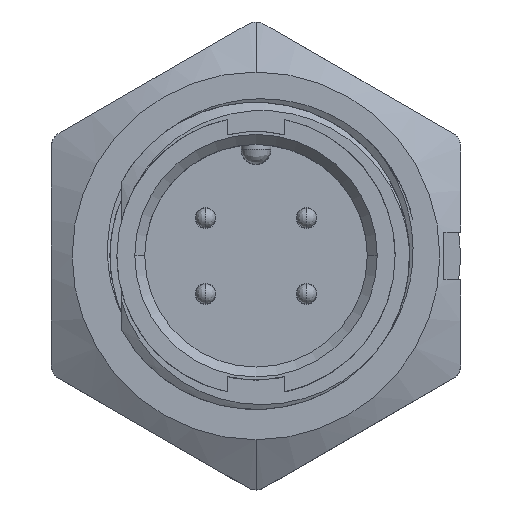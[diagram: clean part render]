
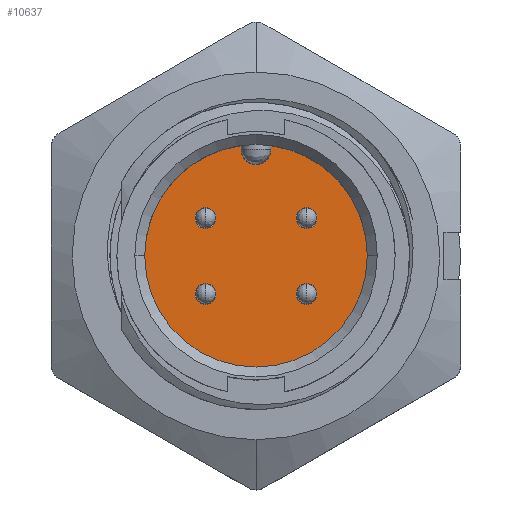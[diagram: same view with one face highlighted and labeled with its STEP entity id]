
A CAD part, top view. The second image highlights one B-rep face of the part: STEP entity #10637.
In plain terms, the highlighted planar face has unit normal (0, 0, 1).
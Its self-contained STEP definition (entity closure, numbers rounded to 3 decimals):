
#108 = EDGE_CURVE ( 'NONE', #7923, #13502, #4096, .T. ) ;
#156 = CIRCLE ( 'NONE', #10740, 0.525 ) ;
#239 = EDGE_CURVE ( 'NONE', #5351, #7704, #5421, .T. ) ;
#447 = EDGE_CURVE ( 'NONE', #5622, #7923, #3599, .T. ) ;
#527 = DIRECTION ( 'NONE',  ( 0., 0., 1. ) ) ;
#532 = DIRECTION ( 'NONE',  ( 0., 0., -1. ) ) ;
#550 = DIRECTION ( 'NONE',  ( 0., 1., 0. ) ) ;
#989 = CARTESIAN_POINT ( 'NONE',  ( 0., 0., -9. ) ) ;
#1037 = EDGE_LOOP ( 'NONE', ( #10437, #8827, #8202, #5336, #7594, #7313 ) ) ;
#1140 = CARTESIAN_POINT ( 'NONE',  ( 2.54, 1.91, -9. ) ) ;
#1224 = ORIENTED_EDGE ( 'NONE', *, *, #239, .T. ) ;
#1381 = EDGE_CURVE ( 'NONE', #7704, #5351, #3412, .T. ) ;
#1386 = CARTESIAN_POINT ( 'NONE',  ( -0.75, -0.028, -9. ) ) ;
#1578 = CARTESIAN_POINT ( 'NONE',  ( -2.54, 1.905, -9. ) ) ;
#1686 = CARTESIAN_POINT ( 'NONE',  ( -5.6, 0., -9. ) ) ;
#1696 = CARTESIAN_POINT ( 'NONE',  ( -2.54, -1.91, -9. ) ) ;
#1872 = CARTESIAN_POINT ( 'NONE',  ( 0.75, 5.55, -9. ) ) ;
#1918 = FACE_BOUND ( 'NONE', #11991, .T. ) ;
#1926 = EDGE_LOOP ( 'NONE', ( #5452, #13392 ) ) ;
#1984 = FACE_BOUND ( 'NONE', #7952, .T. ) ;
#2079 = CARTESIAN_POINT ( 'NONE',  ( 0.75, -0.028, -9. ) ) ;
#2147 = CARTESIAN_POINT ( 'NONE',  ( -3.065, 1.905, -9. ) ) ;
#2148 = CARTESIAN_POINT ( 'NONE',  ( -3.065, -1.91, -9. ) ) ;
#2337 = DIRECTION ( 'NONE',  ( 1., 0., 0. ) ) ;
#2387 = EDGE_CURVE ( 'NONE', #4112, #9021, #10254, .T. ) ;
#2411 = CARTESIAN_POINT ( 'NONE',  ( -2.54, -1.91, -9. ) ) ;
#2870 = DIRECTION ( 'NONE',  ( 0., 0., -1. ) ) ;
#3055 = EDGE_CURVE ( 'NONE', #8758, #13012, #4974, .T. ) ;
#3250 = EDGE_CURVE ( 'NONE', #4664, #4952, #156, .T. ) ;
#3412 = CIRCLE ( 'NONE', #11127, 0.525 ) ;
#3599 = LINE ( 'NONE', #1386, #7862 ) ;
#3723 = ORIENTED_EDGE ( 'NONE', *, *, #12087, .T. ) ;
#3963 = CARTESIAN_POINT ( 'NONE',  ( 3.065, 1.91, -9. ) ) ;
#4096 = CIRCLE ( 'NONE', #12479, 5.6 ) ;
#4112 = VERTEX_POINT ( 'NONE', #10463 ) ;
#4542 = DIRECTION ( 'NONE',  ( 0., 0., -1. ) ) ;
#4583 = DIRECTION ( 'NONE',  ( 1., 0., 0. ) ) ;
#4664 = VERTEX_POINT ( 'NONE', #12103 ) ;
#4940 = AXIS2_PLACEMENT_3D ( 'NONE', #989, #10375, #8237 ) ;
#4952 = VERTEX_POINT ( 'NONE', #2148 ) ;
#4974 = LINE ( 'NONE', #2079, #8093 ) ;
#4997 = CARTESIAN_POINT ( 'NONE',  ( -2.54, 1.905, -9. ) ) ;
#5164 = CIRCLE ( 'NONE', #4940, 5.6 ) ;
#5336 = ORIENTED_EDGE ( 'NONE', *, *, #108, .T. ) ;
#5351 = VERTEX_POINT ( 'NONE', #3963 ) ;
#5355 = DIRECTION ( 'NONE',  ( 0., 0., -1. ) ) ;
#5375 = AXIS2_PLACEMENT_3D ( 'NONE', #11843, #9833, #4583 ) ;
#5421 = CIRCLE ( 'NONE', #8072, 0.525 ) ;
#5452 = ORIENTED_EDGE ( 'NONE', *, *, #12678, .T. ) ;
#5622 = VERTEX_POINT ( 'NONE', #10049 ) ;
#5723 = DIRECTION ( 'NONE',  ( 0., 0., 1. ) ) ;
#5786 = CARTESIAN_POINT ( 'NONE',  ( 0., 0., -9. ) ) ;
#5795 = DIRECTION ( 'NONE',  ( 0., 0., -1. ) ) ;
#5917 = DIRECTION ( 'NONE',  ( 1., 0., 0. ) ) ;
#6005 = VERTEX_POINT ( 'NONE', #13426 ) ;
#6141 = DIRECTION ( 'NONE',  ( 0., 0., 1. ) ) ;
#6347 = FACE_BOUND ( 'NONE', #10711, .T. ) ;
#6598 = ORIENTED_EDGE ( 'NONE', *, *, #3250, .T. ) ;
#6609 = AXIS2_PLACEMENT_3D ( 'NONE', #9092, #5723, #7795 ) ;
#6971 = VERTEX_POINT ( 'NONE', #8400 ) ;
#7168 = CARTESIAN_POINT ( 'NONE',  ( 5.6, 0., -9. ) ) ;
#7247 = DIRECTION ( 'NONE',  ( 1., 0., 0. ) ) ;
#7313 = ORIENTED_EDGE ( 'NONE', *, *, #9780, .T. ) ;
#7426 = AXIS2_PLACEMENT_3D ( 'NONE', #11172, #5795, #13115 ) ;
#7495 = CIRCLE ( 'NONE', #9248, 0.525 ) ;
#7594 = ORIENTED_EDGE ( 'NONE', *, *, #12839, .T. ) ;
#7704 = VERTEX_POINT ( 'NONE', #9477 ) ;
#7795 = DIRECTION ( 'NONE',  ( 1., 0., 0. ) ) ;
#7862 = VECTOR ( 'NONE', #550, 1000. ) ;
#7923 = VERTEX_POINT ( 'NONE', #10915 ) ;
#7928 = AXIS2_PLACEMENT_3D ( 'NONE', #8195, #9367, #9302 ) ;
#7952 = EDGE_LOOP ( 'NONE', ( #1224, #9860 ) ) ;
#7974 = DIRECTION ( 'NONE',  ( 1., 0., 0. ) ) ;
#8072 = AXIS2_PLACEMENT_3D ( 'NONE', #13480, #11265, #10154 ) ;
#8093 = VECTOR ( 'NONE', #9196, 1000. ) ;
#8141 = EDGE_CURVE ( 'NONE', #13012, #5622, #13369, .T. ) ;
#8195 = CARTESIAN_POINT ( 'NONE',  ( 2.54, -1.91, -9. ) ) ;
#8202 = ORIENTED_EDGE ( 'NONE', *, *, #447, .T. ) ;
#8237 = DIRECTION ( 'NONE',  ( 1., 0., 0. ) ) ;
#8338 = DIRECTION ( 'NONE',  ( 1., 0., 0. ) ) ;
#8380 = ORIENTED_EDGE ( 'NONE', *, *, #11582, .T. ) ;
#8391 = DIRECTION ( 'NONE',  ( 0., 0., -1. ) ) ;
#8400 = CARTESIAN_POINT ( 'NONE',  ( 3.065, -1.91, -9. ) ) ;
#8580 = CIRCLE ( 'NONE', #7928, 0.525 ) ;
#8758 = VERTEX_POINT ( 'NONE', #1872 ) ;
#8827 = ORIENTED_EDGE ( 'NONE', *, *, #8141, .T. ) ;
#9021 = VERTEX_POINT ( 'NONE', #2147 ) ;
#9092 = CARTESIAN_POINT ( 'NONE',  ( 0., 0., -9. ) ) ;
#9196 = DIRECTION ( 'NONE',  ( 0., -1., 0. ) ) ;
#9216 = DIRECTION ( 'NONE',  ( 1., 0., 0. ) ) ;
#9248 = AXIS2_PLACEMENT_3D ( 'NONE', #1696, #2870, #5917 ) ;
#9302 = DIRECTION ( 'NONE',  ( 1., 0., 0. ) ) ;
#9367 = DIRECTION ( 'NONE',  ( 0., 0., -1. ) ) ;
#9477 = CARTESIAN_POINT ( 'NONE',  ( 2.015, 1.91, -9. ) ) ;
#9780 = EDGE_CURVE ( 'NONE', #11449, #8758, #10996, .T. ) ;
#9833 = DIRECTION ( 'NONE',  ( 0., 0., -1. ) ) ;
#9860 = ORIENTED_EDGE ( 'NONE', *, *, #1381, .T. ) ;
#9919 = EDGE_CURVE ( 'NONE', #6005, #6971, #8580, .T. ) ;
#10049 = CARTESIAN_POINT ( 'NONE',  ( -0.75, 5.35, -9. ) ) ;
#10154 = DIRECTION ( 'NONE',  ( 1., 0., 0. ) ) ;
#10254 = CIRCLE ( 'NONE', #11139, 0.525 ) ;
#10327 = PLANE ( 'NONE',  #11010 ) ;
#10375 = DIRECTION ( 'NONE',  ( 0., 0., 1. ) ) ;
#10437 = ORIENTED_EDGE ( 'NONE', *, *, #3055, .T. ) ;
#10463 = CARTESIAN_POINT ( 'NONE',  ( -2.015, 1.905, -9. ) ) ;
#10543 = FACE_OUTER_BOUND ( 'NONE', #1037, .T. ) ;
#10637 = ADVANCED_FACE ( 'NONE', ( #11373, #1918, #1984, #6347, #10543 ), #10327, .T. ) ;
#10711 = EDGE_LOOP ( 'NONE', ( #13235, #3723 ) ) ;
#10740 = AXIS2_PLACEMENT_3D ( 'NONE', #2411, #4542, #2337 ) ;
#10889 = CIRCLE ( 'NONE', #5375, 0.525 ) ;
#10915 = CARTESIAN_POINT ( 'NONE',  ( -0.75, 5.55, -9. ) ) ;
#10996 = CIRCLE ( 'NONE', #6609, 5.6 ) ;
#11010 = AXIS2_PLACEMENT_3D ( 'NONE', #12405, #6141, #8338 ) ;
#11097 = DIRECTION ( 'NONE',  ( 1., 0., 0. ) ) ;
#11127 = AXIS2_PLACEMENT_3D ( 'NONE', #1140, #5355, #7974 ) ;
#11139 = AXIS2_PLACEMENT_3D ( 'NONE', #4997, #8391, #9216 ) ;
#11172 = CARTESIAN_POINT ( 'NONE',  ( 0., 5.35, -9. ) ) ;
#11265 = DIRECTION ( 'NONE',  ( 0., 0., -1. ) ) ;
#11349 = AXIS2_PLACEMENT_3D ( 'NONE', #1578, #532, #7247 ) ;
#11373 = FACE_BOUND ( 'NONE', #1926, .T. ) ;
#11449 = VERTEX_POINT ( 'NONE', #7168 ) ;
#11582 = EDGE_CURVE ( 'NONE', #4952, #4664, #7495, .T. ) ;
#11843 = CARTESIAN_POINT ( 'NONE',  ( 2.54, -1.91, -9. ) ) ;
#11991 = EDGE_LOOP ( 'NONE', ( #6598, #8380 ) ) ;
#12012 = CIRCLE ( 'NONE', #11349, 0.525 ) ;
#12087 = EDGE_CURVE ( 'NONE', #9021, #4112, #12012, .T. ) ;
#12103 = CARTESIAN_POINT ( 'NONE',  ( -2.015, -1.91, -9. ) ) ;
#12405 = CARTESIAN_POINT ( 'NONE',  ( 0., -0.028, -9. ) ) ;
#12479 = AXIS2_PLACEMENT_3D ( 'NONE', #5786, #527, #11097 ) ;
#12662 = CARTESIAN_POINT ( 'NONE',  ( 0.75, 5.35, -9. ) ) ;
#12678 = EDGE_CURVE ( 'NONE', #6971, #6005, #10889, .T. ) ;
#12839 = EDGE_CURVE ( 'NONE', #13502, #11449, #5164, .T. ) ;
#13012 = VERTEX_POINT ( 'NONE', #12662 ) ;
#13115 = DIRECTION ( 'NONE',  ( 1., 0., 0. ) ) ;
#13235 = ORIENTED_EDGE ( 'NONE', *, *, #2387, .T. ) ;
#13369 = CIRCLE ( 'NONE', #7426, 0.75 ) ;
#13392 = ORIENTED_EDGE ( 'NONE', *, *, #9919, .T. ) ;
#13426 = CARTESIAN_POINT ( 'NONE',  ( 2.015, -1.91, -9. ) ) ;
#13480 = CARTESIAN_POINT ( 'NONE',  ( 2.54, 1.91, -9. ) ) ;
#13502 = VERTEX_POINT ( 'NONE', #1686 ) ;
